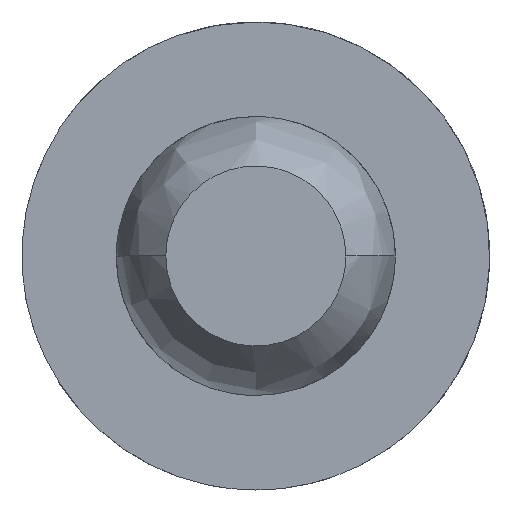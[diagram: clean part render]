
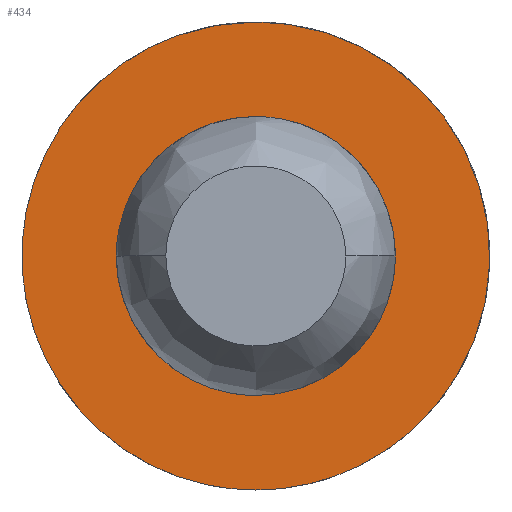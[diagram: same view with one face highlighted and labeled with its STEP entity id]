
A CAD part, left-side view. The second image highlights one B-rep face of the part: STEP entity #434.
In plain terms, the highlighted free-form (B-spline) face has degree [1, 1] with [2, 2] control points.
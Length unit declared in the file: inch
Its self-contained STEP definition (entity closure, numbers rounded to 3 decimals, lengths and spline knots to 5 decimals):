
#8 = VERTEX_POINT ( 'NONE', #675 ) ;
#20 = EDGE_LOOP ( 'NONE', ( #264, #144 ) ) ;
#37 = ORIENTED_EDGE ( 'NONE', *, *, #664, .F. ) ;
#43 = CARTESIAN_POINT ( 'NONE',  ( 1.22, -0.06, 0.03 ) ) ;
#58 = CARTESIAN_POINT ( 'NONE',  ( 1.22, 0.02684, -0.01559 ) ) ;
#61 = EDGE_CURVE ( 'NONE', #209, #148, #722, .T. ) ;
#98 = CARTESIAN_POINT ( 'NONE',  ( 1.22, -0.06, -0.03 ) ) ;
#101 = CARTESIAN_POINT ( 'NONE',  ( 1.22, 0.04791, -0.0624 ) ) ;
#120 = CARTESIAN_POINT ( 'NONE',  ( 1.22, 0., 0.03 ) ) ;
#140 = CARTESIAN_POINT ( 'NONE',  ( 1.22, 0.07894, -0.07894 ) ) ;
#144 = ORIENTED_EDGE ( 'NONE', *, *, #624, .T. ) ;
#148 = VERTEX_POINT ( 'NONE', #310 ) ;
#154 = CARTESIAN_POINT ( 'NONE',  ( 1.22, -0.156, 0.078 ) ) ;
#161 = CARTESIAN_POINT ( 'NONE',  ( 1.22, 0.0624, -0.04791 ) ) ;
#166 = CARTESIAN_POINT ( 'NONE',  ( 1.22, 0.04791, 0.0624 ) ) ;
#176 = CARTESIAN_POINT ( 'NONE',  ( 1.22, 0.02684, 0.01559 ) ) ;
#195 = CARTESIAN_POINT ( 'NONE',  ( 1.22, -0.07894, 0.07894 ) ) ;
#209 = VERTEX_POINT ( 'NONE', #558 ) ;
#219 = CARTESIAN_POINT ( 'NONE',  ( 1.22, 0.02039, 0.07598 ) ) ;
#220 = VERTEX_POINT ( 'NONE', #606 ) ;
#254 = B_SPLINE_SURFACE_WITH_KNOTS ( 'NONE', 1, 1, ( 
 ( #195, #483 ),
 ( #651, #140 ) ),
 .UNSPECIFIED., .F., .F., .F.,
 ( 2, 2 ),
 ( 2, 2 ),
 ( 0., 1. ),
 ( 0., 1. ),
 .UNSPECIFIED. ) ;
#264 = ORIENTED_EDGE ( 'NONE', *, *, #296, .F. ) ;
#273 = EDGE_LOOP ( 'NONE', ( #665, #37 ) ) ;
#281 =( BOUNDED_CURVE ( )  B_SPLINE_CURVE ( 3, ( #447, #98, #43, #736 ),
 .UNSPECIFIED., .F., .F. ) 
 B_SPLINE_CURVE_WITH_KNOTS ( ( 4, 4 ),
 ( -3.14159, 0. ),
 .UNSPECIFIED. ) 
 CURVE ( )  GEOMETRIC_REPRESENTATION_ITEM ( )  RATIONAL_B_SPLINE_CURVE ( ( 1., 0.333, 0.333, 1. ) ) 
 REPRESENTATION_ITEM ( '' )  );
#296 = EDGE_CURVE ( 'NONE', #8, #220, #666, .T. ) ;
#310 = CARTESIAN_POINT ( 'NONE',  ( 1.22, 0., 0.03 ) ) ;
#320 = CARTESIAN_POINT ( 'NONE',  ( 1.22, 0., -0.078 ) ) ;
#323 = CARTESIAN_POINT ( 'NONE',  ( 1.22, 0.06814, 0.03931 ) ) ;
#341 = CARTESIAN_POINT ( 'NONE',  ( 1.22, 0.00796, 0.03 ) ) ;
#367 = CARTESIAN_POINT ( 'NONE',  ( 1.22, 0., 0.078 ) ) ;
#380 = CARTESIAN_POINT ( 'NONE',  ( 1.22, -0.156, -0.078 ) ) ;
#393 = CARTESIAN_POINT ( 'NONE',  ( 1.22, 0., -0.078 ) ) ;
#395 = CARTESIAN_POINT ( 'NONE',  ( 1.22, 0., -0.03 ) ) ;
#397 = CARTESIAN_POINT ( 'NONE',  ( 1.22, 0.03, 0.00796 ) ) ;
#434 = ADVANCED_FACE ( 'NONE', ( #583, #436 ), #254, .F. ) ;
#436 = FACE_OUTER_BOUND ( 'NONE', #20, .T. ) ;
#443 = CARTESIAN_POINT ( 'NONE',  ( 1.22, 0.03931, 0.06814 ) ) ;
#447 = CARTESIAN_POINT ( 'NONE',  ( 1.22, 0., -0.03 ) ) ;
#455 = CARTESIAN_POINT ( 'NONE',  ( 1.22, 0.078, 0.01024 ) ) ;
#483 = CARTESIAN_POINT ( 'NONE',  ( 1.22, 0.07894, 0.07894 ) ) ;
#511 = CARTESIAN_POINT ( 'NONE',  ( 1.22, 0.06814, -0.03931 ) ) ;
#516 = CARTESIAN_POINT ( 'NONE',  ( 1.22, 0.07598, 0.02039 ) ) ;
#523 = CARTESIAN_POINT ( 'NONE',  ( 1.22, 0.01559, 0.02684 ) ) ;
#558 = CARTESIAN_POINT ( 'NONE',  ( 1.22, 0., -0.03 ) ) ;
#560 = CARTESIAN_POINT ( 'NONE',  ( 1.22, 0.03931, -0.06814 ) ) ;
#583 = FACE_BOUND ( 'NONE', #273, .T. ) ;
#606 = CARTESIAN_POINT ( 'NONE',  ( 1.22, 0., -0.078 ) ) ;
#613 = CARTESIAN_POINT ( 'NONE',  ( 1.22, 0., 0.078 ) ) ;
#623 = CARTESIAN_POINT ( 'NONE',  ( 1.22, 0.07598, -0.02039 ) ) ;
#624 = EDGE_CURVE ( 'NONE', #8, #220, #676, .T. ) ;
#634 = CARTESIAN_POINT ( 'NONE',  ( 1.22, 0.00796, -0.03 ) ) ;
#651 = CARTESIAN_POINT ( 'NONE',  ( 1.22, -0.07894, -0.07894 ) ) ;
#664 = EDGE_CURVE ( 'NONE', #209, #148, #281, .T. ) ;
#665 = ORIENTED_EDGE ( 'NONE', *, *, #61, .T. ) ;
#666 =( BOUNDED_CURVE ( )  B_SPLINE_CURVE ( 3, ( #367, #154, #380, #320 ),
 .UNSPECIFIED., .F., .T. ) 
 B_SPLINE_CURVE_WITH_KNOTS ( ( 4, 4 ),
 ( -3.14159, 0. ),
 .UNSPECIFIED. ) 
 CURVE ( )  GEOMETRIC_REPRESENTATION_ITEM ( )  RATIONAL_B_SPLINE_CURVE ( ( 1., 0.333, 0.333, 1. ) ) 
 REPRESENTATION_ITEM ( '' )  );
#668 = CARTESIAN_POINT ( 'NONE',  ( 1.22, 0.078, -0.01024 ) ) ;
#675 = CARTESIAN_POINT ( 'NONE',  ( 1.22, 0., 0.078 ) ) ;
#676 = B_SPLINE_CURVE_WITH_KNOTS ( 'NONE', 3,
 ( #613, #678, #219, #443, #166, #726, #323, #516, #455, #668, #623, #511, #161, #101, #560, #681, #731, #393 ),
 .UNSPECIFIED., .F., .F.,
 ( 4, 2, 2, 2, 2, 2, 2, 2, 4 ),
 ( 0., 0.3927, 0.7854, 1.1781, 1.5708, 1.9635, 2.35619, 2.74889, 3.14159 ),
 .UNSPECIFIED. ) ;
#678 = CARTESIAN_POINT ( 'NONE',  ( 1.22, 0.01024, 0.078 ) ) ;
#681 = CARTESIAN_POINT ( 'NONE',  ( 1.22, 0.02039, -0.07598 ) ) ;
#684 = CARTESIAN_POINT ( 'NONE',  ( 1.22, 0.01559, -0.02684 ) ) ;
#722 = B_SPLINE_CURVE_WITH_KNOTS ( 'NONE', 3,
 ( #395, #634, #684, #58, #743, #397, #176, #523, #341, #120 ),
 .UNSPECIFIED., .F., .F.,
 ( 4, 2, 2, 2, 4 ),
 ( 0., 0.7854, 1.5708, 2.35619, 3.14159 ),
 .UNSPECIFIED. ) ;
#726 = CARTESIAN_POINT ( 'NONE',  ( 1.22, 0.0624, 0.04791 ) ) ;
#731 = CARTESIAN_POINT ( 'NONE',  ( 1.22, 0.01024, -0.078 ) ) ;
#736 = CARTESIAN_POINT ( 'NONE',  ( 1.22, 0., 0.03 ) ) ;
#743 = CARTESIAN_POINT ( 'NONE',  ( 1.22, 0.03, -0.00796 ) ) ;
